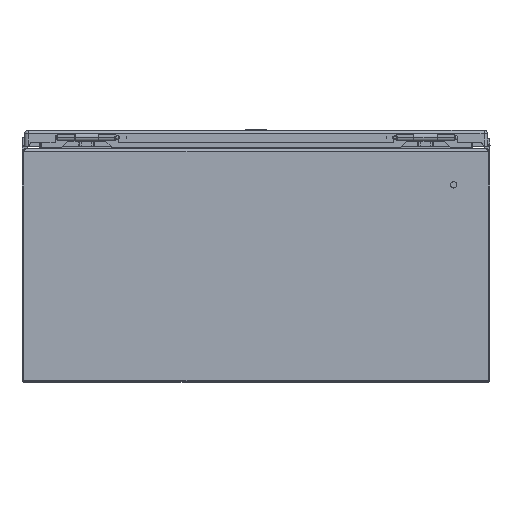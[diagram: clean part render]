
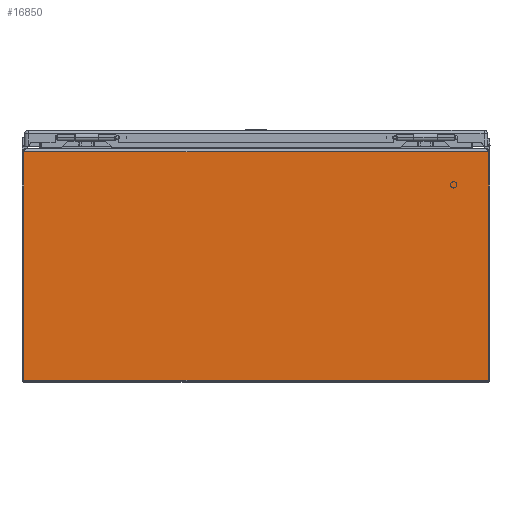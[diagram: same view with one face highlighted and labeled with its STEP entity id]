
A CAD part, left-side view. The second image highlights one B-rep face of the part: STEP entity #16850.
In plain terms, the highlighted planar face has unit normal (-1, 0, 0).
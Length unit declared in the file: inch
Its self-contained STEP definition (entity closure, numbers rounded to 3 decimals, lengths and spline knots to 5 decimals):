
#11676 = FACE_OUTER_BOUND ( 'NONE', #26565, .T. ) ;
#13137 = EDGE_CURVE ( 'NONE', #45058, #45152, #13865, .T. ) ;
#13154 = EDGE_CURVE ( 'NONE', #45395, #44784, #13897, .T. ) ;
#13167 = EDGE_CURVE ( 'NONE', #45395, #45058, #13918, .T. ) ;
#13217 = EDGE_CURVE ( 'NONE', #45152, #44784, #13998, .T. ) ;
#13865 = LINE ( 'NONE', #27634, #13886 ) ;
#13886 = VECTOR ( 'NONE', #27516, 39.37008 ) ;
#13897 = LINE ( 'NONE', #27845, #13909 ) ;
#13909 = VECTOR ( 'NONE', #28000, 39.37008 ) ;
#13918 = LINE ( 'NONE', #27741, #13923 ) ;
#13923 = VECTOR ( 'NONE', #27792, 39.37008 ) ;
#13998 = LINE ( 'NONE', #27954, #13999 ) ;
#13999 = VECTOR ( 'NONE', #27747, 39.37008 ) ;
#14584 = AXIS2_PLACEMENT_3D ( 'NONE', #16035, #15819, #15852 ) ;
#15819 = DIRECTION ( 'NONE',  ( -1., 0., 0. ) ) ;
#15852 = DIRECTION ( 'NONE',  ( 0., 0., -1. ) ) ;
#15996 = PLANE ( 'NONE',  #14584 ) ;
#16035 = CARTESIAN_POINT ( 'NONE',  ( -10., 110., 9.859 ) ) ;
#16850 = ADVANCED_FACE ( 'NONE', ( #11676 ), #15996, .T. ) ;
#26565 = EDGE_LOOP ( 'NONE', ( #42536, #42524, #42496, #42504 ) ) ;
#27516 = DIRECTION ( 'NONE',  ( 0., -1., 0. ) ) ;
#27634 = CARTESIAN_POINT ( 'NONE',  ( -10., 110., 0.097 ) ) ;
#27741 = CARTESIAN_POINT ( 'NONE',  ( -10., 9.94693, 9.859 ) ) ;
#27747 = DIRECTION ( 'NONE',  ( 0., 0., 1. ) ) ;
#27792 = DIRECTION ( 'NONE',  ( 0., 0., -1. ) ) ;
#27845 = CARTESIAN_POINT ( 'NONE',  ( -10., 110., 9.859 ) ) ;
#27954 = CARTESIAN_POINT ( 'NONE',  ( -10., -9.94693, 9.859 ) ) ;
#28000 = DIRECTION ( 'NONE',  ( 0., -1., 0. ) ) ;
#33589 = CARTESIAN_POINT ( 'NONE',  ( -10., 9.94693, 0.097 ) ) ;
#33645 = CARTESIAN_POINT ( 'NONE',  ( -10., -9.94693, 0.097 ) ) ;
#33780 = CARTESIAN_POINT ( 'NONE',  ( -10., 9.94693, 9.859 ) ) ;
#35871 = CARTESIAN_POINT ( 'NONE',  ( -10., -9.94693, 9.859 ) ) ;
#42496 = ORIENTED_EDGE ( 'NONE', *, *, #13167, .T. ) ;
#42504 = ORIENTED_EDGE ( 'NONE', *, *, #13137, .T. ) ;
#42524 = ORIENTED_EDGE ( 'NONE', *, *, #13154, .F. ) ;
#42536 = ORIENTED_EDGE ( 'NONE', *, *, #13217, .T. ) ;
#44784 = VERTEX_POINT ( 'NONE', #35871 ) ;
#45058 = VERTEX_POINT ( 'NONE', #33589 ) ;
#45152 = VERTEX_POINT ( 'NONE', #33645 ) ;
#45395 = VERTEX_POINT ( 'NONE', #33780 ) ;
